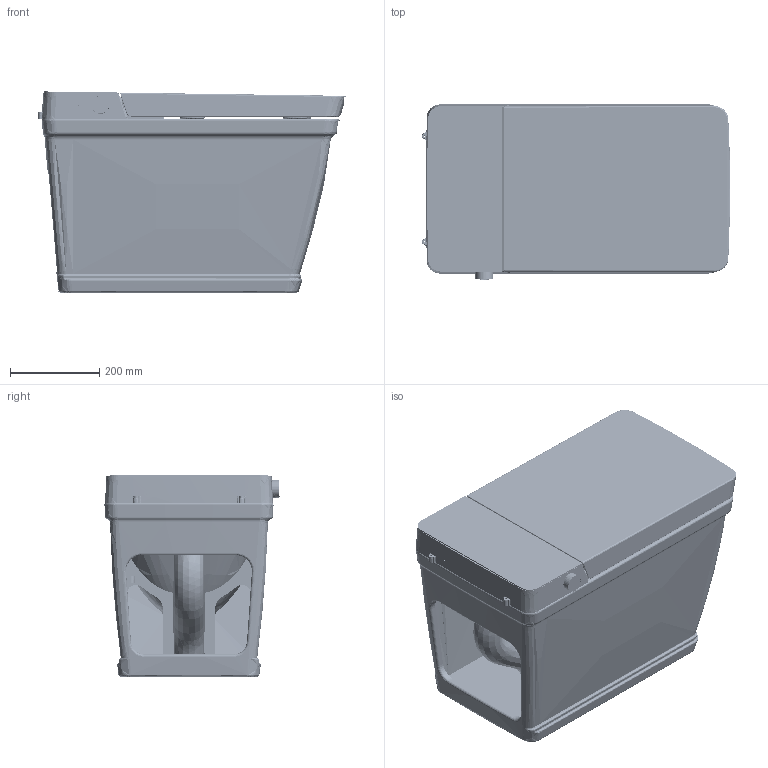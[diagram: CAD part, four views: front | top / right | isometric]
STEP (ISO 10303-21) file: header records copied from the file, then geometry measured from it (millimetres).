
FILE_DESCRIPTION(/* description */ (''),/* implementation_level */ '2;1');
FILE_NAME(/* name */ 'T5.stp',/* time_stamp */ '2024-03-27T13:55:20+08:00',/* author */ (''),/* organization */ (''),/* preprocessor_version */ 'ST-DEVELOPER v11',/* originating_system */ 'SIEMENS PLM Software NX 7.5',/* authorisation */ '');
FILE_SCHEMA (('CONFIG_CONTROL_DESIGN'));
Products named in the file (1): AdmiA6E5zr0r
Bounding box: 691.08 x 392.95 x 451.25 mm (x, y, z)
Volume: 21990208.9 mm3; surface area: 4591672.3 mm2
Topology: 37 solids, 42 shells, 9981 faces, 26869 edges, 16912 vertices
Faces by surface type: plane 3529, cylinder 2882, bspline 2478, cone 483, torus 387, sphere 165, extrusion 53, revolution 4
Full cylindrical faces by diameter (mm): 0.7 x3, 1.5 x1, 2.2 x2, 2.289 x1, 2.3 x42, 2.405 x2, 2.45 x2, 2.5 x6, 2.7 x1, 2.8 x1, 2.889 x1, 3 x1, 3.2 x6, 3.3 x9, 3.5 x3, 4.1 x2, 4.6 x4, 5 x2, 6 x31, 7 x3, 7.5 x1, 8.5 x2, 10.9 x2, 11 x8, 11.727 x1, 11.833 x1, 12.5 x1, 14 x1, 15 x7, 15.7 x2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
Entity records: 439107 total; most frequent: CARTESIAN_POINT 213633, ORIENTED_EDGE 51852, DIRECTION 39976, EDGE_CURVE 25939, VERTEX_POINT 16638, AXIS2_PLACEMENT_3D 14906, EDGE_LOOP 10986, VECTOR 10160
